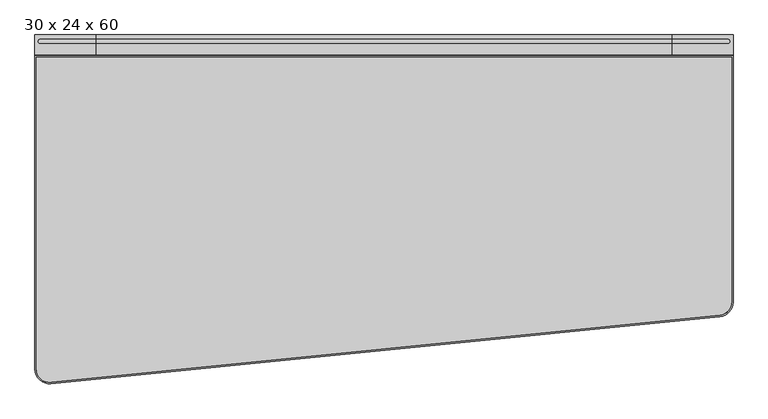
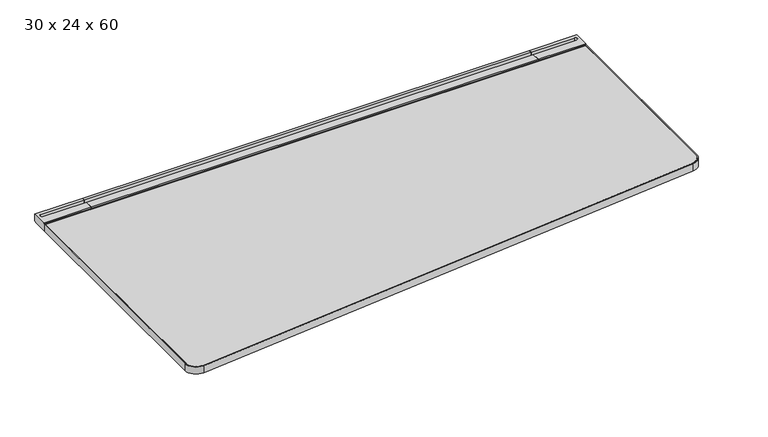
"""IFC4 building model written with IfcOpenShell, lengths in millimetres: furniture geometry, Steelcase - C Scape - Desking - Left Hand Tapered : 30 x 24 x 60."""

from ifc_helpers import new_model, si_unit, point, frame, frame_2d, origin, place, context, project, spatial, polyline, circle_curve, trimmed, segment, composite_curve, outline, extrude, faceted_brep, source, transform, mapped, element, save
from ifc_brep_helpers import plane_surface, revolved_surface, advanced_brep


def furniture_30_x_24_x_60_3097d2cc(model_context):
    return source(origin(), model_context, "Body", "SolidModel", [
        advanced_brep(
        [(134.6072876, -45.3135132, 703.3768), (134.6072876, -4.0331902, 703.3768), (134.6072876, -3.2278472, 705.1038636), (134.6072876, 0.0, 705.1038636), (134.6072876, 0.0, 725.932), (134.6072876, -8.5111084, 725.932), (134.6072876, -8.5111084, 713.486), (134.6072876, -19.3290527, 713.486), (134.6072876, -19.3290527, 725.932), (134.6072876, -42.7750923, 725.932), (134.6072876, -42.7750923, 722.4268341), (134.6072876, -45.3135132, 722.4268341), (1.5875, -45.3135132, 703.3768), (1.5875, -45.3135132, 722.4268341), (1.5875, -42.7750923, 722.4268341), (1.5875, -42.7750923, 725.932), (1.5875, 0.0, 725.932), (1.5875, 0.0, 705.1038636), (1.5875, -3.2278472, 705.1038636), (1.5875, -4.0331902, 703.3768), (13.3495728, -19.3290527, 725.932), (13.3495728, -8.5111084, 725.932), (13.3495728, -8.5111084, 713.486), (13.3495728, -19.3290527, 713.486)],
        [
            (0, 1),
            (1, 2),
            (2, 3),
            (3, 4),
            (4, 5),
            (5, 6),
            (6, 7),
            (7, 8),
            (8, 9),
            (9, 10),
            (10, 11),
            (11, 0),
            (12, 13),
            (13, 14),
            (14, 15),
            (15, 16),
            (16, 17),
            (17, 18),
            (18, 19),
            (19, 12),
            (0, 12),
            (19, 1),
            (18, 2),
            (17, 3),
            (16, 4),
            (15, 9),
            (8, 20),
            (20, 21, circle_curve(frame((13.3495728, -13.9200806, 725.932), z_axis=(0.0, 0.0, -1.0), x_axis=(1.0, 0.0, 0.0)), 5.4089722)),
            (21, 5),
            (14, 10),
            (13, 11),
            (6, 22),
            (22, 23, circle_curve(frame((13.3495728, -13.9200806, 713.486), z_axis=(0.0, 0.0, 1.0), x_axis=(1.0, 0.0, 0.0)), 5.4089722)),
            (23, 7),
            (21, 22),
            (20, 23),
        ],
        [
            plane_surface(frame((134.6072876, -45.3135132, 703.3768), z_axis=(1.0, 0.0, 0.0), x_axis=(0.0, 1.0, 0.0))),
            plane_surface(frame((1.5875, -45.3135132, 703.3768), z_axis=(-1.0, 0.0, 0.0), x_axis=(0.0, -1.0, 0.0))),
            plane_surface(frame((134.6072876, -45.3135132, 703.3768), z_axis=(0.0, 0.0, -1.0), x_axis=(-1.0, 0.0, 0.0))),
            plane_surface(frame((134.6072876, -4.0331902, 703.3768), z_axis=(0.0, 0.9063077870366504, -0.4226182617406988), x_axis=(-1.0, 0.0, 0.0))),
            plane_surface(frame((134.6072876, -3.2278472, 705.1038636), z_axis=(0.0, 0.0, -1.0), x_axis=(-1.0, 0.0, 0.0))),
            plane_surface(frame((134.6072876, 0.0, 705.1038636), z_axis=(0.0, 1.0, 0.0), x_axis=(-1.0, 0.0, 0.0))),
            plane_surface(frame((134.6072876, 0.0, 725.932), z_axis=(0.0, 0.0, 1.0), x_axis=(-1.0, 0.0, 0.0))),
            plane_surface(frame((134.6072876, -42.7750923, 725.932), z_axis=(0.0, -1.0, 0.0), x_axis=(-1.0, 0.0, 0.0))),
            plane_surface(frame((134.6072876, -42.7750923, 722.4268341), z_axis=(0.0, 0.0, 1.0), x_axis=(-1.0, 0.0, 0.0))),
            plane_surface(frame((134.6072876, -45.3135132, 722.4268341), z_axis=(0.0, -1.0, 0.0), x_axis=(-1.0, 0.0, 0.0))),
            plane_surface(frame((13.3495728, -8.5111084, 713.486), z_axis=(0.0, 0.0, 1.0), x_axis=(1.0, 0.0, 0.0))),
            plane_surface(frame((134.6072876, -8.5111084, 731.2180541), z_axis=(0.0, -1.0, 0.0), x_axis=(0.0, 0.0, -1.0))),
            revolved_surface(polyline([(18.758545, -13.9200806, 725.932), (18.758545, -13.9200806, 713.486)]), (13.3495728, -13.9200806, 713.486), (0.0, 0.0, 1.0)),
            plane_surface(frame((13.3495728, -19.3290527, 731.2180541), z_axis=(0.0, 1.0, 0.0), x_axis=(0.0, 0.0, -1.0))),
        ],
        [
            (0, [[1, 2, 3, 4, 5, 6, 7, 8, 9, 10, 11, 12]]),
            (1, [[13, 14, 15, 16, 17, 18, 19, 20]]),
            (2, [[-1, 21, -20, 22]]),
            (3, [[-2, -22, -19, 23]]),
            (4, [[-3, -23, -18, 24]]),
            (5, [[-4, -24, -17, 25]]),
            (6, [[-16, 26, -9, 27, 28, 29, -5, -25]]),
            (7, [[-10, -26, -15, 30]]),
            (8, [[-11, -30, -14, 31]]),
            (9, [[-12, -31, -13, -21]]),
            (10, [[32, 33, 34, -7]]),
            (11, [[-32, -6, -29, 35]]),
            (12, [[-33, -35, -28, 36]]),
            (13, [[-34, -36, -27, -8]]),
        ],
    ),
        faceted_brep([(20.6382632, -565.0752923, 700.7093833), (34.9133728, -565.0752923, 693.4200291), (116.3525879, -565.0752923, 693.4200291), (118.9731301, -565.0752923, 679.3263935), (134.6072876, -565.0752923, 679.3263935), (134.6072876, -565.0752923, 703.3768), (20.6382632, -565.0752923, 703.3768), (20.6382632, -4.0331902, 700.7093833), (20.6382632, -4.0331902, 703.3768), (134.6072876, -4.0331902, 703.3768), (134.6072876, -4.0331902, 629.3866), (128.2588347, -4.0331902, 629.3866), (116.3525879, -4.0331902, 693.4200291), (34.9133728, -4.0331902, 693.4200291), (128.2588347, -364.1172546, 629.3866), (121.1384051, -376.5599397, 667.6812472), (134.6072876, -364.1172546, 629.3866), (134.6072876, -376.5599397, 667.6812472)], [[[0, 1, 2, 3, 4, 5, 6]], [[7, 8, 9, 10, 11, 12, 13]], [[1, 0, 7, 13]], [[2, 1, 13, 12]], [[12, 11, 14, 15, 3, 2]], [[11, 10, 16, 14]], [[10, 9, 5, 4, 17, 16]], [[6, 5, 9, 8]], [[0, 6, 8, 7]], [[15, 17, 4, 3]], [[17, 15, 14, 16]]]),
        extrude(outline(composite_curve([segment(polyline([(-293.5216187, 657.3775839), (-559.0022133, 680.1371551)]), True, "CONTINUOUS"), segment(trimmed(circle_curve(frame_2d((-558.7581271, 682.9843154)), 2.8576039), [point((-559.0022133, 680.1371551))], [point((-561.5383043, 682.3236226))], False, "CARTESIAN"), True, "CONTINUOUS"), segment(polyline([(-561.5383043, 682.3236226), (-566.0887542, 701.4717905), (-557.8334441, 701.4717905), (-557.8334441, 703.3768), (-442.6683806, 703.3768), (-442.6683806, 696.3917953), (-318.2108611, 696.3917953), (-318.2108611, 703.3768), (-293.5216187, 703.3768), (-293.5216187, 657.3775839)]), True, "CONTINUOUS")], self_intersect=False)), frame((725.424, 0.0, 0.0), z_axis=(1.0, 0.0, 0.0), x_axis=(0.0, 1.0, 0.0)), (0.0, 0.0, 1.0), 73.152),
        advanced_brep(
        [(1389.3927124, -45.3135132, 703.3768), (1389.3927124, -45.3135132, 722.4268341), (1389.3927124, -42.7750923, 722.4268341), (1389.3927124, -42.7750923, 725.932), (1389.3927124, -19.3290527, 725.932), (1389.3927124, -19.3290527, 713.486), (1389.3927124, -8.5111084, 713.486), (1389.3927124, -8.5111084, 725.932), (1389.3927124, 0.0, 725.932), (1389.3927124, 0.0, 705.1038636), (1389.3927124, -3.2278472, 705.1038636), (1389.3927124, -4.0331902, 703.3768), (1522.4125, -45.3135132, 703.3768), (1522.4125, -4.0331902, 703.3768), (1522.4125, -3.2278472, 705.1038636), (1522.4125, 0.0, 705.1038636), (1522.4125, 0.0, 725.932), (1522.4125, -42.7750923, 725.932), (1522.4125, -42.7750923, 722.4268341), (1522.4125, -45.3135132, 722.4268341), (1510.6504272, -8.5111084, 725.932), (1510.6504272, -19.3290527, 725.932), (1510.6504272, -19.3290527, 713.486), (1510.6504272, -8.5111084, 713.486)],
        [
            (0, 1),
            (1, 2),
            (2, 3),
            (3, 4),
            (4, 5),
            (5, 6),
            (6, 7),
            (7, 8),
            (8, 9),
            (9, 10),
            (10, 11),
            (11, 0),
            (12, 13),
            (13, 14),
            (14, 15),
            (15, 16),
            (16, 17),
            (17, 18),
            (18, 19),
            (19, 12),
            (11, 13),
            (12, 0),
            (10, 14),
            (9, 15),
            (8, 16),
            (7, 20),
            (20, 21, circle_curve(frame((1510.6504272, -13.9200806, 725.932), z_axis=(0.0, 0.0, -1.0), x_axis=(-1.0, 0.0, 0.0)), 5.4089722)),
            (21, 4),
            (3, 17),
            (2, 18),
            (1, 19),
            (5, 22),
            (22, 23, circle_curve(frame((1510.6504272, -13.9200806, 713.486), z_axis=(0.0, 0.0, 1.0), x_axis=(-1.0, 0.0, 0.0)), 5.4089722)),
            (23, 6),
            (23, 20),
            (22, 21),
        ],
        [
            plane_surface(frame((1389.3927124, -45.3135132, 703.3768), z_axis=(-1.0, 0.0, 0.0), x_axis=(0.0, 1.0, 0.0))),
            plane_surface(frame((1522.4125, -45.3135132, 703.3768), z_axis=(1.0, 0.0, 0.0), x_axis=(0.0, -1.0, 0.0))),
            plane_surface(frame((1389.3927124, -45.3135132, 703.3768), z_axis=(0.0, 0.0, -1.0), x_axis=(1.0, 0.0, 0.0))),
            plane_surface(frame((1389.3927124, -4.0331902, 703.3768), z_axis=(0.0, 0.9063077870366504, -0.4226182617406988), x_axis=(1.0, 0.0, 0.0))),
            plane_surface(frame((1389.3927124, -3.2278472, 705.1038636), z_axis=(0.0, 0.0, -1.0), x_axis=(1.0, 0.0, 0.0))),
            plane_surface(frame((1389.3927124, 0.0, 705.1038636), z_axis=(0.0, 1.0, 0.0), x_axis=(1.0, 0.0, 0.0))),
            plane_surface(frame((1389.3927124, 0.0, 725.932), z_axis=(0.0, 0.0, 1.0), x_axis=(1.0, 0.0, 0.0))),
            plane_surface(frame((1389.3927124, -42.7750923, 725.932), z_axis=(0.0, -1.0, 0.0), x_axis=(1.0, 0.0, 0.0))),
            plane_surface(frame((1389.3927124, -42.7750923, 722.4268341), z_axis=(0.0, 0.0, 1.0), x_axis=(1.0, 0.0, 0.0))),
            plane_surface(frame((1389.3927124, -45.3135132, 722.4268341), z_axis=(0.0, -1.0, 0.0), x_axis=(1.0, 0.0, 0.0))),
            plane_surface(frame((1510.6504272, -8.5111084, 713.486), z_axis=(0.0, 0.0, 1.0), x_axis=(-1.0, 0.0, 0.0))),
            plane_surface(frame((1389.3927124, -8.5111084, 731.2180541), z_axis=(0.0, -1.0, 0.0), x_axis=(0.0, 0.0, -1.0))),
            revolved_surface(polyline([(1505.2414549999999, -13.9200806, 725.932), (1505.2414549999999, -13.9200806, 713.486)]), (1510.6504272, -13.9200806, 713.486), (0.0, 0.0, 1.0)),
            plane_surface(frame((1510.6504272, -19.3290527, 731.2180541), z_axis=(0.0, 1.0, 0.0), x_axis=(0.0, 0.0, -1.0))),
        ],
        [
            (0, [[1, 2, 3, 4, 5, 6, 7, 8, 9, 10, 11, 12]]),
            (1, [[13, 14, 15, 16, 17, 18, 19, 20]]),
            (2, [[21, -13, 22, -12]]),
            (3, [[23, -14, -21, -11]]),
            (4, [[24, -15, -23, -10]]),
            (5, [[25, -16, -24, -9]]),
            (6, [[-25, -8, 26, 27, 28, -4, 29, -17]]),
            (7, [[30, -18, -29, -3]]),
            (8, [[31, -19, -30, -2]]),
            (9, [[-22, -20, -31, -1]]),
            (10, [[-6, 32, 33, 34]]),
            (11, [[35, -26, -7, -34]]),
            (12, [[36, -27, -35, -33]]),
            (13, [[-5, -28, -36, -32]]),
        ],
    ),
        faceted_brep([(1503.3617368, -565.0752923, 700.7093833), (1503.3617368, -565.0752923, 703.3768), (1389.3927124, -565.0752923, 703.3768), (1389.3927124, -565.0752923, 679.3263935), (1405.0268699, -565.0752923, 679.3263935), (1407.6474121, -565.0752923, 693.4200291), (1489.0866272, -565.0752923, 693.4200291), (1503.3617368, -4.0331902, 700.7093833), (1489.0866272, -4.0331902, 693.4200291), (1407.6474121, -4.0331902, 693.4200291), (1395.7411653, -4.0331902, 629.3866), (1389.3927124, -4.0331902, 629.3866), (1389.3927124, -4.0331902, 703.3768), (1503.3617368, -4.0331902, 703.3768), (1402.8615949, -376.5599397, 667.6812472), (1395.7411653, -364.1172546, 629.3866), (1389.3927124, -364.1172546, 629.3866), (1389.3927124, -376.5599397, 667.6812472)], [[[0, 1, 2, 3, 4, 5, 6]], [[7, 8, 9, 10, 11, 12, 13]], [[6, 8, 7, 0]], [[5, 9, 8, 6]], [[9, 5, 4, 14, 15, 10]], [[10, 15, 16, 11]], [[11, 16, 17, 3, 2, 12]], [[1, 13, 12, 2]], [[0, 7, 13, 1]], [[14, 4, 3, 17]], [[17, 16, 15, 14]]]),
        extrude(outline(polyline([(-8.5111084, 725.932), (0.0, 725.932), (0.0, 705.1038636), (-3.2278472, 705.1038636), (-4.0331902, 703.3768), (-45.3135132, 703.3768), (-45.3135132, 722.4268341), (-42.7750923, 722.4268341), (-42.7750923, 725.932), (-19.3290527, 725.932), (-19.3290527, 713.486), (-8.5111084, 713.486), (-8.5111084, 725.932)])), frame((134.6072876, 0.0, 0.0), z_axis=(1.0, 0.0, 0.0), x_axis=(0.0, 1.0, 0.0)), (0.0, 0.0, 1.0), 1254.7854248),
        extrude(outline(polyline([(1389.3927124, -4.0331902), (1389.3927124, -293.5216187), (134.6072876, -293.5216187), (134.6072876, -4.0331902), (1389.3927124, -4.0331902)])), frame((0.0, 0.0, 629.3866), z_axis=(0.0, 0.0, 1.0), x_axis=(1.0, 0.0, 0.0)), (0.0, 0.0, 1.0), 73.9902),
        extrude(outline(composite_curve([segment(polyline([(1519.3645, -48.3660689), (1519.3645, -581.0845942)]), True, "CONTINUOUS"), segment(trimmed(circle_curve(frame_2d((1490.059299, -581.0845942)), 29.305201), [point((1519.3645, -581.0845942))], [point((1492.9931119, -610.2425699))], False, "CARTESIAN"), True, "CONTINUOUS"), segment(polyline([(1492.9931119, -610.2425699), (36.8381677, -756.7577516)]), True, "CONTINUOUS"), segment(trimmed(circle_curve(frame_2d((33.9076624, -727.6326485)), 29.2721624), [point((36.8381677, -756.7577516))], [point((4.6355, -727.6326485))], False, "CARTESIAN"), True, "CONTINUOUS"), segment(polyline([(4.6355, -727.6326485), (4.6355, -48.3660689), (1519.3645, -48.3660689)]), True, "CONTINUOUS")], self_intersect=False)), frame((0.0, 0.0, 703.3768), z_axis=(0.0, 0.0, 1.0), x_axis=(1.0, 0.0, 0.0)), (0.0, 0.0, 1.0), 20.5232),
        extrude(outline(composite_curve([segment(trimmed(circle_curve(frame_2d((1490.6625, -581.9169695)), 31.75), [point((1522.4125, -581.9169695))], [point((1493.8282914, -613.5087448))], False, "CARTESIAN"), True, "CONTINUOUS"), segment(polyline([(1493.8282914, -613.5087448), (36.5032914, -759.5463424)]), True, "CONTINUOUS"), segment(trimmed(circle_curve(frame_2d((33.3375, -727.9545671)), 31.75), [point((36.5032914, -759.5463424))], [point((1.5875, -727.9545671))], False, "CARTESIAN"), True, "CONTINUOUS"), segment(polyline([(1.5875, -727.9545671), (1.5875, -45.3150923), (1522.4125, -45.3150923), (1522.4125, -581.9169695)]), True, "CONTINUOUS")], self_intersect=False), holes=[composite_curve([segment(trimmed(circle_curve(frame_2d((33.3375, -727.9545671)), 28.6990234), [point((4.6384766, -727.9545671))], [point((36.1990786, -756.5105703))], True, "CARTESIAN"), True, "CONTINUOUS"), segment(polyline([(36.1990786, -756.5105703), (1493.5240786, -610.4729726)]), True, "CONTINUOUS"), segment(trimmed(circle_curve(frame_2d((1490.6625, -581.9169695)), 28.6990234), [point((1493.5240786, -610.4729726))], [point((1519.3615234, -581.9169695))], True, "CARTESIAN"), True, "CONTINUOUS"), segment(polyline([(1519.3615234, -581.9169695), (1519.3615234, -48.3660689), (4.6384766, -48.3660689), (4.6384766, -727.9545671)]), True, "CONTINUOUS")], self_intersect=False)]), frame((0.0, 0.0, 703.3768), z_axis=(0.0, 0.0, 1.0), x_axis=(1.0, 0.0, 0.0)), (0.0, 0.0, 1.0), 20.5232),
    ])


if __name__ == "__main__":
    model = new_model("IFC4")
    model_context = context("Model", 3, world=origin())
    ifc_project = project(units=[si_unit("LENGTHUNIT", "METRE", prefix="MILLI")], contexts=[model_context])
    site = spatial("IfcSite", under=ifc_project)
    building = spatial("IfcBuilding", under=site)
    placement = place(None, origin())
    furniture_30_x_24_x_60_shape = furniture_30_x_24_x_60_3097d2cc(model_context)
    element("IfcFurniture", 1, ObjectType="Steelcase - C Scape - Desking - Left Hand Tapered : 30 x 24 x 60", at=placement, inside=building, context=model_context, shape_type="MappedRepresentation", body=[
        mapped(furniture_30_x_24_x_60_shape, transform((0.0, 0.0, 0.0), x_axis=(1.0, 0.0, 0.0), y_axis=(0.0, 1.0, 0.0), z_axis=(0.0, 0.0, 1.0))),
    ])
    save(model, "model.ifc")
